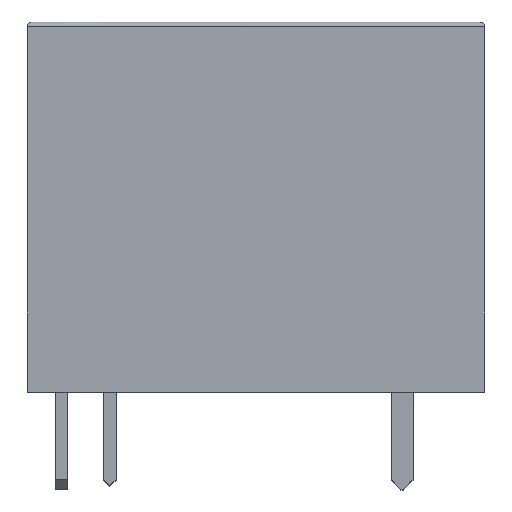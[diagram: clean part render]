
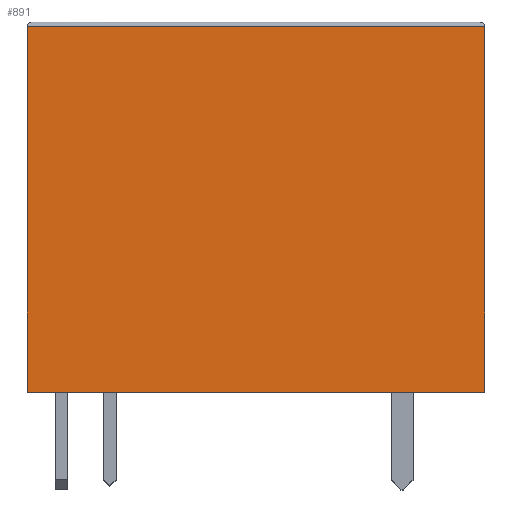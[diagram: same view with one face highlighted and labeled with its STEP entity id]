
A CAD part, top view. The second image highlights one B-rep face of the part: STEP entity #891.
In plain terms, the highlighted planar face has unit normal (0, 0, 1).
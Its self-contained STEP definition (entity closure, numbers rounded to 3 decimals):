
#32 = PLANE('',#33);
#33 = AXIS2_PLACEMENT_3D('',#34,#35,#36);
#34 = CARTESIAN_POINT('',(0.,0.,0.));
#35 = DIRECTION('',(0.,-1.,0.));
#36 = DIRECTION('',(0.,-0.,-1.));
#255 = VERTEX_POINT('',#256);
#256 = CARTESIAN_POINT('',(9.4,0.,7.5));
#272 = PLANE('',#273);
#273 = AXIS2_PLACEMENT_3D('',#274,#275,#276);
#274 = CARTESIAN_POINT('',(9.4,15.2,7.5));
#275 = DIRECTION('',(-1.,0.,0.));
#276 = DIRECTION('',(0.,0.,1.));
#284 = EDGE_CURVE('',#285,#255,#287,.T.);
#285 = VERTEX_POINT('',#286);
#286 = CARTESIAN_POINT('',(-9.4,0.,7.5));
#287 = SURFACE_CURVE('',#288,(#292,#299),.PCURVE_S1.);
#288 = LINE('',#289,#290);
#289 = CARTESIAN_POINT('',(-9.4,0.,7.5));
#290 = VECTOR('',#291,1.);
#291 = DIRECTION('',(1.,0.,0.));
#292 = PCURVE('',#32,#293);
#293 = DEFINITIONAL_REPRESENTATION('',(#294),#298);
#294 = LINE('',#295,#296);
#295 = CARTESIAN_POINT('',(-7.5,-9.4));
#296 = VECTOR('',#297,1.);
#297 = DIRECTION('',(0.,1.));
#298 = ( GEOMETRIC_REPRESENTATION_CONTEXT(2) 
PARAMETRIC_REPRESENTATION_CONTEXT() REPRESENTATION_CONTEXT('2D SPACE',''
  ) );
#299 = PCURVE('',#300,#305);
#300 = PLANE('',#301);
#301 = AXIS2_PLACEMENT_3D('',#302,#303,#304);
#302 = CARTESIAN_POINT('',(-9.4,15.2,7.5));
#303 = DIRECTION('',(0.,0.,-1.));
#304 = DIRECTION('',(-1.,0.,-0.));
#305 = DEFINITIONAL_REPRESENTATION('',(#306),#310);
#306 = LINE('',#307,#308);
#307 = CARTESIAN_POINT('',(-0.,-15.2));
#308 = VECTOR('',#309,1.);
#309 = DIRECTION('',(-1.,0.));
#310 = ( GEOMETRIC_REPRESENTATION_CONTEXT(2) 
PARAMETRIC_REPRESENTATION_CONTEXT() REPRESENTATION_CONTEXT('2D SPACE',''
  ) );
#328 = PLANE('',#329);
#329 = AXIS2_PLACEMENT_3D('',#330,#331,#332);
#330 = CARTESIAN_POINT('',(-9.4,15.2,7.5));
#331 = DIRECTION('',(1.,-0.,0.));
#332 = DIRECTION('',(0.,0.,-1.));
#735 = VERTEX_POINT('',#736);
#736 = CARTESIAN_POINT('',(9.4,15.,7.5));
#762 = EDGE_CURVE('',#735,#255,#763,.T.);
#763 = SURFACE_CURVE('',#764,(#768,#775),.PCURVE_S1.);
#764 = LINE('',#765,#766);
#765 = CARTESIAN_POINT('',(9.4,15.2,7.5));
#766 = VECTOR('',#767,1.);
#767 = DIRECTION('',(-0.,-1.,-0.));
#768 = PCURVE('',#272,#769);
#769 = DEFINITIONAL_REPRESENTATION('',(#770),#774);
#770 = LINE('',#771,#772);
#771 = CARTESIAN_POINT('',(0.,0.));
#772 = VECTOR('',#773,1.);
#773 = DIRECTION('',(0.,-1.));
#774 = ( GEOMETRIC_REPRESENTATION_CONTEXT(2) 
PARAMETRIC_REPRESENTATION_CONTEXT() REPRESENTATION_CONTEXT('2D SPACE',''
  ) );
#775 = PCURVE('',#300,#776);
#776 = DEFINITIONAL_REPRESENTATION('',(#777),#781);
#777 = LINE('',#778,#779);
#778 = CARTESIAN_POINT('',(-18.8,0.));
#779 = VECTOR('',#780,1.);
#780 = DIRECTION('',(0.,-1.));
#781 = ( GEOMETRIC_REPRESENTATION_CONTEXT(2) 
PARAMETRIC_REPRESENTATION_CONTEXT() REPRESENTATION_CONTEXT('2D SPACE',''
  ) );
#841 = EDGE_CURVE('',#842,#285,#844,.T.);
#842 = VERTEX_POINT('',#843);
#843 = CARTESIAN_POINT('',(-9.4,15.,7.5));
#844 = SURFACE_CURVE('',#845,(#849,#856),.PCURVE_S1.);
#845 = LINE('',#846,#847);
#846 = CARTESIAN_POINT('',(-9.4,15.2,7.5));
#847 = VECTOR('',#848,1.);
#848 = DIRECTION('',(-0.,-1.,-0.));
#849 = PCURVE('',#328,#850);
#850 = DEFINITIONAL_REPRESENTATION('',(#851),#855);
#851 = LINE('',#852,#853);
#852 = CARTESIAN_POINT('',(0.,0.));
#853 = VECTOR('',#854,1.);
#854 = DIRECTION('',(0.,-1.));
#855 = ( GEOMETRIC_REPRESENTATION_CONTEXT(2) 
PARAMETRIC_REPRESENTATION_CONTEXT() REPRESENTATION_CONTEXT('2D SPACE',''
  ) );
#856 = PCURVE('',#300,#857);
#857 = DEFINITIONAL_REPRESENTATION('',(#858),#862);
#858 = LINE('',#859,#860);
#859 = CARTESIAN_POINT('',(0.,0.));
#860 = VECTOR('',#861,1.);
#861 = DIRECTION('',(0.,-1.));
#862 = ( GEOMETRIC_REPRESENTATION_CONTEXT(2) 
PARAMETRIC_REPRESENTATION_CONTEXT() REPRESENTATION_CONTEXT('2D SPACE',''
  ) );
#891 = ADVANCED_FACE('',(#892),#300,.F.);
#892 = FACE_BOUND('',#893,.T.);
#893 = EDGE_LOOP('',(#894,#895,#921,#922));
#894 = ORIENTED_EDGE('',*,*,#762,.F.);
#895 = ORIENTED_EDGE('',*,*,#896,.T.);
#896 = EDGE_CURVE('',#735,#842,#897,.T.);
#897 = SURFACE_CURVE('',#898,(#902,#909),.PCURVE_S1.);
#898 = LINE('',#899,#900);
#899 = CARTESIAN_POINT('',(-9.4,15.,7.5));
#900 = VECTOR('',#901,1.);
#901 = DIRECTION('',(-1.,-0.,-0.));
#902 = PCURVE('',#300,#903);
#903 = DEFINITIONAL_REPRESENTATION('',(#904),#908);
#904 = LINE('',#905,#906);
#905 = CARTESIAN_POINT('',(-0.,-0.2));
#906 = VECTOR('',#907,1.);
#907 = DIRECTION('',(1.,0.));
#908 = ( GEOMETRIC_REPRESENTATION_CONTEXT(2) 
PARAMETRIC_REPRESENTATION_CONTEXT() REPRESENTATION_CONTEXT('2D SPACE',''
  ) );
#909 = PCURVE('',#910,#915);
#910 = CYLINDRICAL_SURFACE('',#911,0.2);
#911 = AXIS2_PLACEMENT_3D('',#912,#913,#914);
#912 = CARTESIAN_POINT('',(0.,15.,7.3));
#913 = DIRECTION('',(1.,0.,0.));
#914 = DIRECTION('',(0.,0.,-1.));
#915 = DEFINITIONAL_REPRESENTATION('',(#916),#920);
#916 = LINE('',#917,#918);
#917 = CARTESIAN_POINT('',(3.142,-9.4));
#918 = VECTOR('',#919,1.);
#919 = DIRECTION('',(0.,-1.));
#920 = ( GEOMETRIC_REPRESENTATION_CONTEXT(2) 
PARAMETRIC_REPRESENTATION_CONTEXT() REPRESENTATION_CONTEXT('2D SPACE',''
  ) );
#921 = ORIENTED_EDGE('',*,*,#841,.T.);
#922 = ORIENTED_EDGE('',*,*,#284,.T.);
